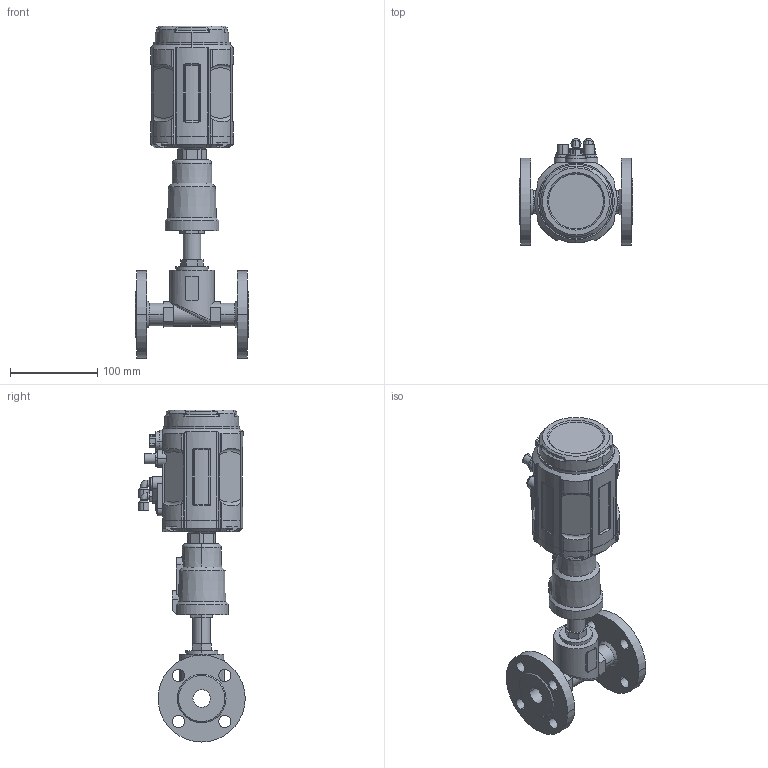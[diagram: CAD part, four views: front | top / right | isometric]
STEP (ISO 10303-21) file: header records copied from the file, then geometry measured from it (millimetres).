
FILE_DESCRIPTION((''),'2;1');
FILE_NAME('PV_F_EPP_P_2_ASM','2025-03-06T',('USER'),(''),'PRO/ENGINEER BY PARAMETRIC TECHNOLOGY CORPORATION, 2011220','PRO/ENGINEER BY PARAMETRIC TECHNOLOGY CORPORATION, 2011220','');
FILE_SCHEMA(('CONFIG_CONTROL_DESIGN'));
Length unit declared in the file: millimetre
Products named in the file (12): KLAPAN; PNEVMOPRIVOD; KOLCO_52_GOST13943; POZICIONER_VERX; POZICIONER_NIZ; SHLYAPKA_VINT; DET; DET_2; SHLYAPKA_VINT_2; DET_3; SB_POZICIONER_ASM; PV_F_EPP_P_2_ASM
Assembly tree (18 placements, depth 3):
  PV_F_EPP_P_2_ASM
    KLAPAN
    PNEVMOPRIVOD
    KOLCO_52_GOST13943
    SB_POZICIONER_ASM
      POZICIONER_VERX
      POZICIONER_NIZ
      SHLYAPKA_VINT  x4
      DET
      DET_2
      SHLYAPKA_VINT_2  x4
      DET_3  x2
Bounding box: 130 x 122.25 x 381.5 mm (x, y, z)
Volume: 1487327.5 mm3; surface area: 179976.1 mm2
Topology: 17 solids, 22 shells, 818 faces, 2058 edges, 1345 vertices
Faces by surface type: plane 397, cylinder 327, cone 46, torus 24, bspline 12, sphere 12
Entity records: 22069 total; most frequent: CARTESIAN_POINT 5374, DIRECTION 3503, ORIENTED_EDGE 3370, EDGE_CURVE 1695, AXIS2_PLACEMENT_3D 1322, VERTEX_POINT 1110, VECTOR 859, LINE 859
